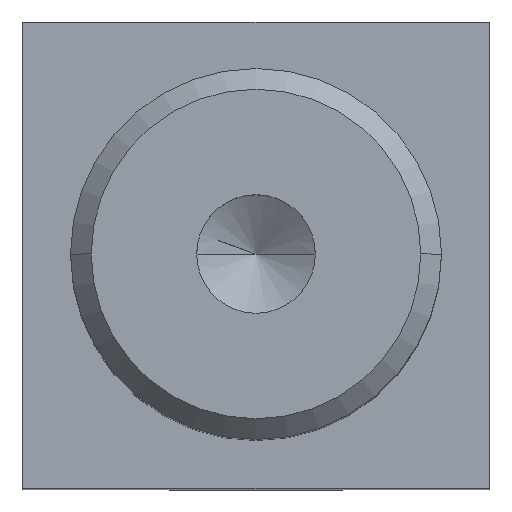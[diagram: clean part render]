
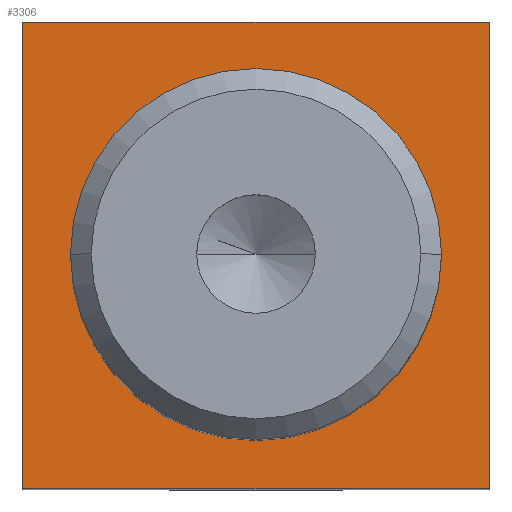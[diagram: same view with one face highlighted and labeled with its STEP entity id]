
A CAD part, top view. The second image highlights one B-rep face of the part: STEP entity #3306.
In plain terms, the highlighted planar face has unit normal (0, 0, 1).
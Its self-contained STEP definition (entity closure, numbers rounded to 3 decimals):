
#552 = VERTEX_POINT ( 'NONE', #2267 ) ;
#561 = EDGE_CURVE ( 'NONE', #552, #563, #2323, .T. ) ;
#563 = VERTEX_POINT ( 'NONE', #2319 ) ;
#973 = EDGE_CURVE ( 'NONE', #563, #992, #2560, .T. ) ;
#992 = VERTEX_POINT ( 'NONE', #2570 ) ;
#1249 = EDGE_CURVE ( 'NONE', #1250, #1251, #3093, .T. ) ;
#1250 = VERTEX_POINT ( 'NONE', #3120 ) ;
#1251 = VERTEX_POINT ( 'NONE', #3119 ) ;
#2267 = CARTESIAN_POINT ( 'NONE',  ( 22.5, -22.5, 95.5 ) ) ;
#2319 = CARTESIAN_POINT ( 'NONE',  ( 22.5, 22.5, 95.5 ) ) ;
#2320 = DIRECTION ( 'NONE',  ( 0., 1., 0. ) ) ;
#2321 = VECTOR ( 'NONE', #2320, 1000. ) ;
#2322 = CARTESIAN_POINT ( 'NONE',  ( 22.5, 0., 95.5 ) ) ;
#2323 = LINE ( 'NONE', #2322, #2321 ) ;
#2557 = DIRECTION ( 'NONE',  ( -1., 0., 0. ) ) ;
#2558 = VECTOR ( 'NONE', #2557, 1000. ) ;
#2559 = CARTESIAN_POINT ( 'NONE',  ( 0., 22.5, 95.5 ) ) ;
#2560 = LINE ( 'NONE', #2559, #2558 ) ;
#2570 = CARTESIAN_POINT ( 'NONE',  ( -22.5, 22.5, 95.5 ) ) ;
#3089 = CARTESIAN_POINT ( 'NONE',  ( 0., 0., 95.5 ) ) ;
#3090 = DIRECTION ( 'NONE',  ( 1., 0., 0. ) ) ;
#3091 = DIRECTION ( 'NONE',  ( 0., 0., 1. ) ) ;
#3092 = AXIS2_PLACEMENT_3D ( 'NONE', #3089, #3091, #3090 ) ;
#3093 = CIRCLE ( 'NONE', #3092, 17.9 ) ;
#3119 = CARTESIAN_POINT ( 'NONE',  ( -17.9, 0., 95.5 ) ) ;
#3120 = CARTESIAN_POINT ( 'NONE',  ( 17.9, 0., 95.5 ) ) ;
#3190 = DIRECTION ( 'NONE',  ( 1., 0., 0. ) ) ;
#3191 = DIRECTION ( 'NONE',  ( 0., 0., 1. ) ) ;
#3192 = CARTESIAN_POINT ( 'NONE',  ( 0., 0., 95.5 ) ) ;
#3194 = AXIS2_PLACEMENT_3D ( 'NONE', #3192, #3191, #3190 ) ;
#3195 = FACE_BOUND ( 'NONE', #3339, .T. ) ;
#3196 = FACE_OUTER_BOUND ( 'NONE', #3307, .T. ) ;
#3201 = PLANE ( 'NONE',  #3194 ) ;
#3206 = DIRECTION ( 'NONE',  ( 0., -1., 0. ) ) ;
#3207 = VECTOR ( 'NONE', #3206, 1000. ) ;
#3208 = CARTESIAN_POINT ( 'NONE',  ( -22.5, 0., 95.5 ) ) ;
#3209 = LINE ( 'NONE', #3208, #3207 ) ;
#3210 = CARTESIAN_POINT ( 'NONE',  ( -22.5, -22.5, 95.5 ) ) ;
#3229 = DIRECTION ( 'NONE',  ( 1., 0., 0. ) ) ;
#3230 = DIRECTION ( 'NONE',  ( 0., 0., 1. ) ) ;
#3231 = CARTESIAN_POINT ( 'NONE',  ( 0., 0., 95.5 ) ) ;
#3232 = AXIS2_PLACEMENT_3D ( 'NONE', #3231, #3230, #3229 ) ;
#3237 = CIRCLE ( 'NONE', #3232, 17.9 ) ;
#3263 = VERTEX_POINT ( 'NONE', #3210 ) ;
#3270 = DIRECTION ( 'NONE',  ( 1., 0., 0. ) ) ;
#3271 = VECTOR ( 'NONE', #3270, 1000. ) ;
#3272 = CARTESIAN_POINT ( 'NONE',  ( 0., -22.5, 95.5 ) ) ;
#3273 = LINE ( 'NONE', #3272, #3271 ) ;
#3289 = EDGE_CURVE ( 'NONE', #992, #3263, #3209, .T. ) ;
#3303 = ORIENTED_EDGE ( 'NONE', *, *, #561, .T. ) ;
#3304 = ORIENTED_EDGE ( 'NONE', *, *, #973, .T. ) ;
#3305 = ORIENTED_EDGE ( 'NONE', *, *, #3340, .T. ) ;
#3306 = ADVANCED_FACE ( 'NONE', ( #3196, #3195 ), #3201, .T. ) ;
#3307 = EDGE_LOOP ( 'NONE', ( #3308, #3305, #3303, #3304 ) ) ;
#3308 = ORIENTED_EDGE ( 'NONE', *, *, #3289, .T. ) ;
#3323 = EDGE_CURVE ( 'NONE', #1251, #1250, #3237, .T. ) ;
#3326 = ORIENTED_EDGE ( 'NONE', *, *, #1249, .F. ) ;
#3329 = ORIENTED_EDGE ( 'NONE', *, *, #3323, .F. ) ;
#3339 = EDGE_LOOP ( 'NONE', ( #3326, #3329 ) ) ;
#3340 = EDGE_CURVE ( 'NONE', #3263, #552, #3273, .T. ) ;
